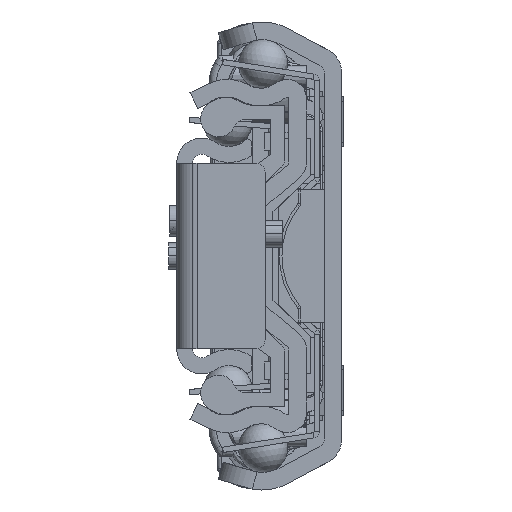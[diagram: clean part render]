
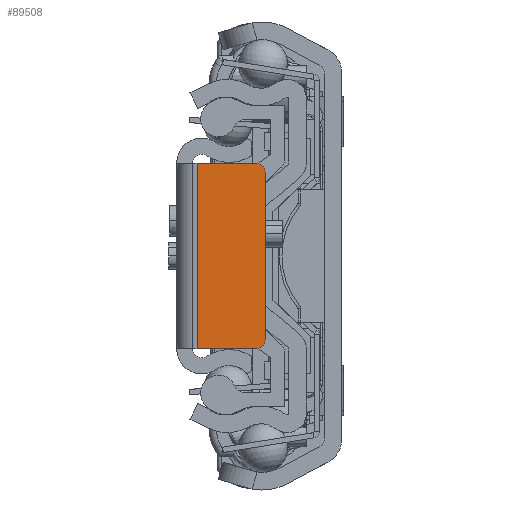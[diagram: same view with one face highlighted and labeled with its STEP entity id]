
A CAD part, left-side view. The second image highlights one B-rep face of the part: STEP entity #89508.
In plain terms, the highlighted planar face has unit normal (-1, 0, 0).
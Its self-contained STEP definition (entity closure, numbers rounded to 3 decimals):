
#87428=DIRECTION('',(0.,-1.,0.));
#87429=VECTOR('',#87428,6.7);
#87430=CARTESIAN_POINT('',(0.,-2.3,10.5));
#87431=LINE('',#87430,#87429);
#87795=DIRECTION('',(0.,-1.,0.));
#87796=VECTOR('',#87795,6.7);
#87797=CARTESIAN_POINT('',(0.,-2.3,-10.5));
#87798=LINE('',#87797,#87796);
#87799=CARTESIAN_POINT('',(0.,-9.,9.5));
#87800=DIRECTION('',(-1.,0.,0.));
#87801=DIRECTION('',(0.,-1.,0.));
#87802=AXIS2_PLACEMENT_3D('',#87799,#87800,#87801);
#87804=CARTESIAN_POINT('',(0.,-9.,-9.5));
#87805=DIRECTION('',(-1.,0.,0.));
#87806=DIRECTION('',(0.,0.,-1.));
#87807=AXIS2_PLACEMENT_3D('',#87804,#87805,#87806);
#87809=DIRECTION('',(0.,0.,1.));
#87810=VECTOR('',#87809,21.);
#87811=CARTESIAN_POINT('',(0.,-2.3,-10.5));
#87812=LINE('',#87811,#87810);
#87821=DIRECTION('',(0.,0.,1.));
#87822=VECTOR('',#87821,19.);
#87823=CARTESIAN_POINT('',(0.,-10.,-9.5));
#87824=LINE('',#87823,#87822);
#88760=CARTESIAN_POINT('',(0.,-2.3,-10.5));
#88761=CARTESIAN_POINT('',(0.,-2.3,10.5));
#88762=VERTEX_POINT('',#88760);
#88763=VERTEX_POINT('',#88761);
#88792=CARTESIAN_POINT('',(0.,-10.,9.5));
#88793=VERTEX_POINT('',#88792);
#88794=CARTESIAN_POINT('',(0.,-9.,10.5));
#88795=VERTEX_POINT('',#88794);
#88796=CARTESIAN_POINT('',(0.,-9.,-10.5));
#88797=CARTESIAN_POINT('',(0.,-10.,-9.5));
#88798=VERTEX_POINT('',#88796);
#88799=VERTEX_POINT('',#88797);
#89493=CARTESIAN_POINT('',(0.,-2.3,-10.5));
#89494=DIRECTION('',(-1.,0.,0.));
#89495=DIRECTION('',(0.,-1.,0.));
#89496=AXIS2_PLACEMENT_3D('',#89493,#89494,#89495);
#89497=PLANE('',#89496);
#89498=ORIENTED_EDGE('',*,*,#89215,.F.);
#89500=ORIENTED_EDGE('',*,*,#89499,.F.);
#89501=ORIENTED_EDGE('',*,*,#89484,.F.);
#89502=ORIENTED_EDGE('',*,*,#89474,.F.);
#89504=ORIENTED_EDGE('',*,*,#89503,.T.);
#89505=ORIENTED_EDGE('',*,*,#89192,.T.);
#89506=EDGE_LOOP('',(#89498,#89500,#89501,#89502,#89504,#89505));
#89507=FACE_OUTER_BOUND('',#89506,.F.);
#87803=CIRCLE('',#87802,1.);
#87808=CIRCLE('',#87807,1.);
#89192=EDGE_CURVE('',#88763,#88795,#87431,.T.);
#89215=EDGE_CURVE('',#88793,#88795,#87803,.T.);
#89474=EDGE_CURVE('',#88762,#88798,#87798,.T.);
#89484=EDGE_CURVE('',#88798,#88799,#87808,.T.);
#89499=EDGE_CURVE('',#88799,#88793,#87824,.T.);
#89503=EDGE_CURVE('',#88762,#88763,#87812,.T.);
#89508=ADVANCED_FACE('',(#89507),#89497,.T.);
